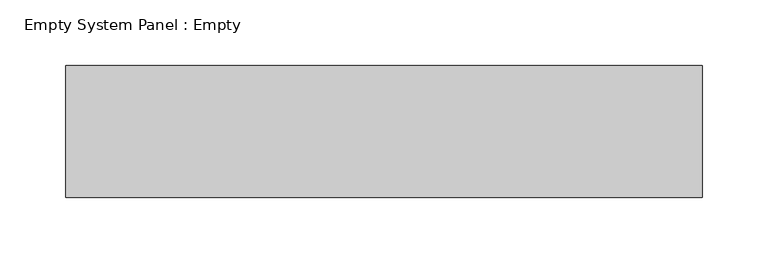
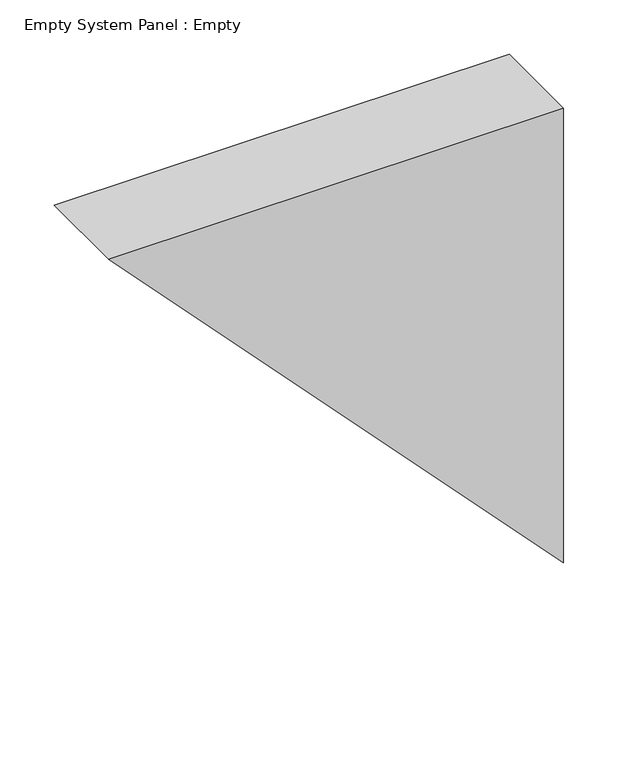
"""IFC4 building model written with IfcOpenShell, lengths in millimetres: plate geometry, Empty System Panel : Empty."""

from ifc_helpers import new_model, si_unit, frame, origin, place, context, project, spatial, polyline, outline, extrude, source, transform, mapped, element, save


def empty_system_panel_empty_75c931c5(model_context):
    return source(origin(), model_context, "Body", "SweptSolid", [
        extrude(outline(polyline([(510.1778573, -241.644078), (0.0, 241.644078), (510.1778573, 241.644078), (510.1778573, -241.644078)])), frame((0.0, -50.0, 0.0), z_axis=(0.0, 1.0, 0.0), x_axis=(0.0, 0.0, 1.0)), (0.0, 0.0, 1.0), 100.0),
    ])


if __name__ == "__main__":
    model = new_model("IFC4")
    model_context = context("Model", 3, world=origin())
    ifc_project = project(units=[si_unit("LENGTHUNIT", "METRE", prefix="MILLI")], contexts=[model_context])
    site = spatial("IfcSite", under=ifc_project)
    building = spatial("IfcBuilding", under=site)
    placement = place(None, origin())
    empty_system_panel_empty_shape = empty_system_panel_empty_75c931c5(model_context)
    element("IfcPlate", 1, ObjectType="Empty System Panel : Empty", at=placement, inside=building, context=model_context, shape_type="MappedRepresentation", body=[
        mapped(empty_system_panel_empty_shape, transform((0.0, 0.0, 0.0), x_axis=(1.0, 0.0, 0.0), y_axis=(0.0, 1.0, 0.0), z_axis=(0.0, 0.0, 1.0))),
    ])
    save(model, "model.ifc")
